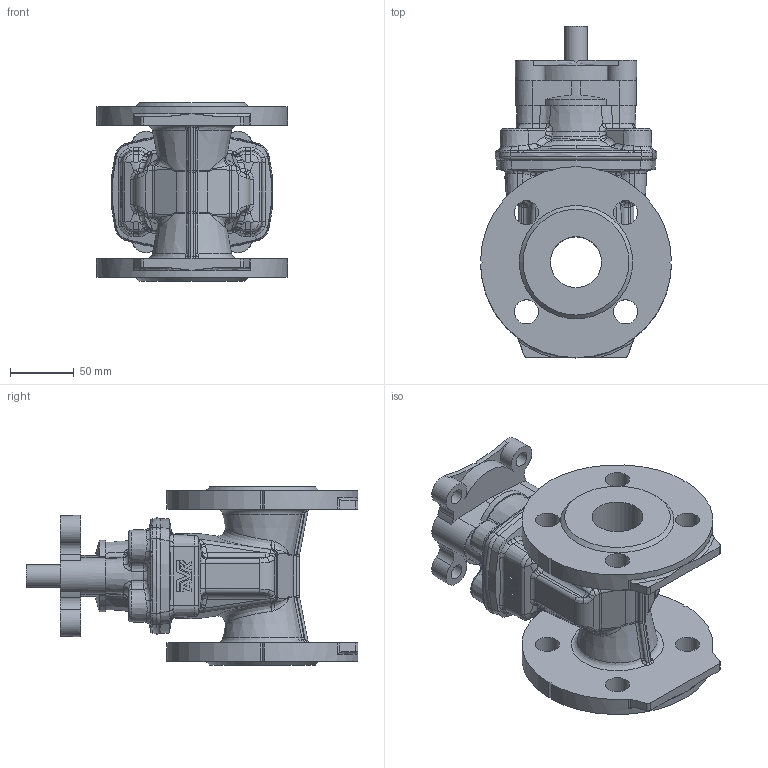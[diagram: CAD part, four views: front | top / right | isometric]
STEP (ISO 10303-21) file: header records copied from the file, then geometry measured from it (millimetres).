
FILE_DESCRIPTION (( 'STEP AP203' ), '1' );
FILE_NAME ('O_06_42_DN040_X1XXX_REV02.step', '2025-12-18T06:49:08', ( '' ), ( '' ), 'SwSTEP 2.0', 'SolidWorks 2022', '' );
FILE_SCHEMA (( 'CONFIG_CONTROL_DESIGN' ));
Length unit declared in the file: millimetre
Products named in the file (1): O_06_42_DN040_X1XXX_REV02
Bounding box: 149.97 x 260.5 x 140 mm (x, y, z)
Volume: 1420615.9 mm3; surface area: 188489.6 mm2
Topology: 1 solids, 1 shells, 644 faces, 1571 edges, 927 vertices
Faces by surface type: bspline 274, plane 141, cylinder 119, cone 60, torus 46, sphere 4
Full cylindrical faces by diameter (mm): 12 x4, 18 x1, 19 x8, 40 x1, 72 x1
Entity records: 26662 total; most frequent: CARTESIAN_POINT 13666, ORIENTED_EDGE 3060, DIRECTION 2239, EDGE_CURVE 1530, AXIS2_PLACEMENT_3D 918, VERTEX_POINT 915, EDGE_LOOP 697, FACE_OUTER_BOUND 659
